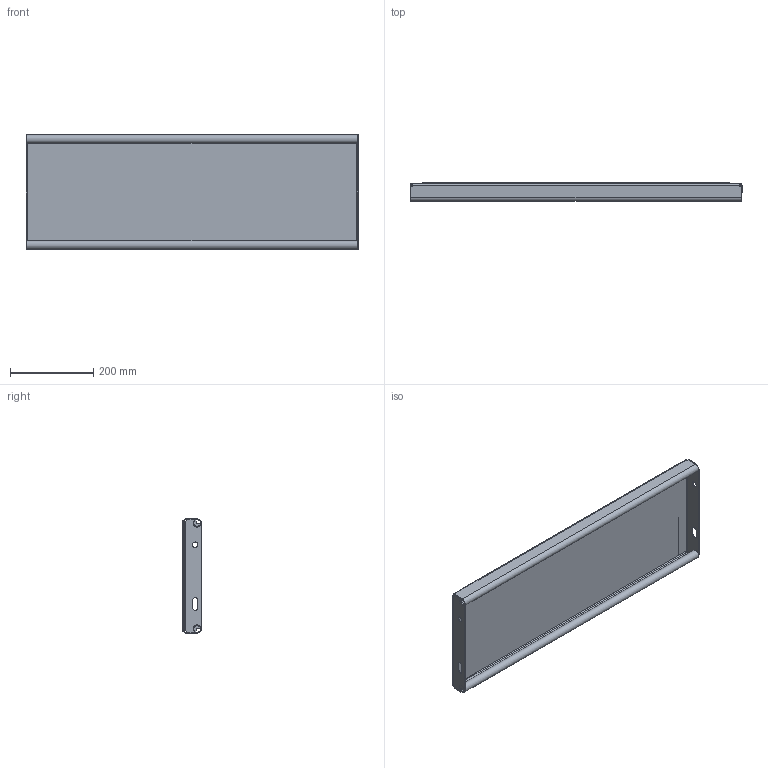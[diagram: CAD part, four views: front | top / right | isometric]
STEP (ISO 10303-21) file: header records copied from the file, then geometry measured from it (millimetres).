
FILE_DESCRIPTION (( 'STEP AP214' ), '1' );
FILE_NAME ('OPTIMO-Tread-Achil-O2-800x275x45x2-st240-F100430100_plain.STEP', '2021-03-17T14:03:10', ( '' ), ( '' ), 'SwSTEP 2.0', 'SolidWorks 2021', '' );
FILE_SCHEMA (( 'AUTOMOTIVE_DESIGN' ));
Length unit declared in the file: millimetre
Products named in the file (1): OPTIMO-Tread-Achil-O2-800x275x45x2-st240-F100430100_plain
Bounding box: 800 x 45 x 275 mm (x, y, z)
Volume: 1318131.7 mm3; surface area: 737386.7 mm2
Topology: 1 solids, 1 shells, 248 faces, 640 edges, 412 vertices
Faces by surface type: plane 173, bspline 39, cylinder 36
Entity records: 9924 total; most frequent: CARTESIAN_POINT 4092, ORIENTED_EDGE 1280, DIRECTION 1022, EDGE_CURVE 640, LINE 490, VECTOR 490, VERTEX_POINT 412, EDGE_LOOP 274
